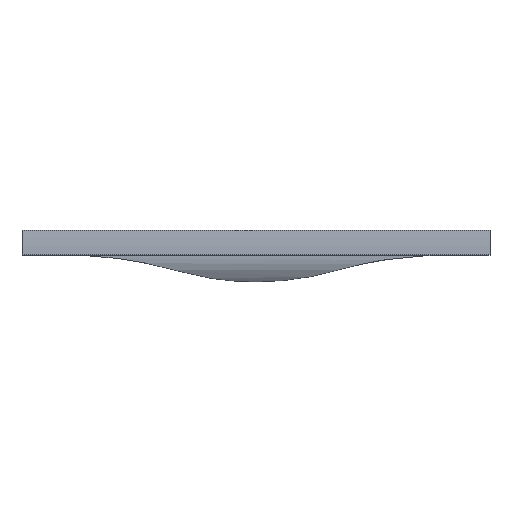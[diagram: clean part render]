
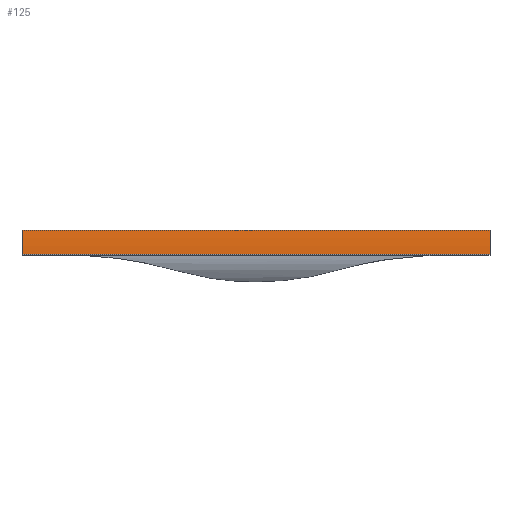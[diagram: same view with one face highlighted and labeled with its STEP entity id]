
A CAD part, top view. The second image highlights one B-rep face of the part: STEP entity #125.
In plain terms, the highlighted cylindrical face has radius 176.85 mm (diameter 353.7 mm), a partial arc.
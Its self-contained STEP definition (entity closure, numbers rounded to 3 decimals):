
#125 = ADVANCED_FACE( '', ( #244 ), #245, .T. );
#244 = FACE_OUTER_BOUND( '', #355, .T. );
#245 = CYLINDRICAL_SURFACE( '', #356, 176.85 );
#355 = EDGE_LOOP( '', ( #599, #600, #601, #602 ) );
#356 = AXIS2_PLACEMENT_3D( '', #603, #604, #605 );
#599 = ORIENTED_EDGE( '', *, *, #789, .T. );
#600 = ORIENTED_EDGE( '', *, *, #778, .F. );
#601 = ORIENTED_EDGE( '', *, *, #729, .F. );
#602 = ORIENTED_EDGE( '', *, *, #790, .T. );
#603 = CARTESIAN_POINT( '', ( 197.5, -11., -173.85 ) );
#604 = DIRECTION( '', ( 1., 0., 0. ) );
#605 = DIRECTION( '', ( 0., 0., 1. ) );
#729 = EDGE_CURVE( '', #880, #873, #882, .T. );
#778 = EDGE_CURVE( '', #873, #951, #952, .T. );
#789 = EDGE_CURVE( '', #964, #951, #965, .T. );
#790 = EDGE_CURVE( '', #880, #964, #966, .T. );
#873 = VERTEX_POINT( '', #1082 );
#880 = VERTEX_POINT( '', #1092 );
#882 = CIRCLE( '', #1095, 176.85 );
#951 = VERTEX_POINT( '', #1248 );
#952 = LINE( '', #1249, #1250 );
#964 = VERTEX_POINT( '', #1285 );
#965 = CIRCLE( '', #1286, 176.85 );
#966 = LINE( '', #1287, #1288 );
#1082 = CARTESIAN_POINT( '', ( 197.5, -11., 3. ) );
#1092 = CARTESIAN_POINT( '', ( 197.5, 9.5, 1.808 ) );
#1095 = AXIS2_PLACEMENT_3D( '', #1346, #1347, #1348 );
#1248 = CARTESIAN_POINT( '', ( -197.5, -11., 3. ) );
#1249 = CARTESIAN_POINT( '', ( 197.5, -11., 3. ) );
#1250 = VECTOR( '', #1384, 1000. );
#1285 = CARTESIAN_POINT( '', ( -197.5, 9.5, 1.808 ) );
#1286 = AXIS2_PLACEMENT_3D( '', #1391, #1392, #1393 );
#1287 = CARTESIAN_POINT( '', ( 197.5, 9.5, 1.808 ) );
#1288 = VECTOR( '', #1394, 1000. );
#1346 = CARTESIAN_POINT( '', ( 197.5, -11., -173.85 ) );
#1347 = DIRECTION( '', ( 1., 0., 0. ) );
#1348 = DIRECTION( '', ( 0., 0., -1. ) );
#1384 = DIRECTION( '', ( -1., 0., 0. ) );
#1391 = CARTESIAN_POINT( '', ( -197.5, -11., -173.85 ) );
#1392 = DIRECTION( '', ( 1., 0., 0. ) );
#1393 = DIRECTION( '', ( 0., 0., -1. ) );
#1394 = DIRECTION( '', ( -1., 0., 0. ) );
